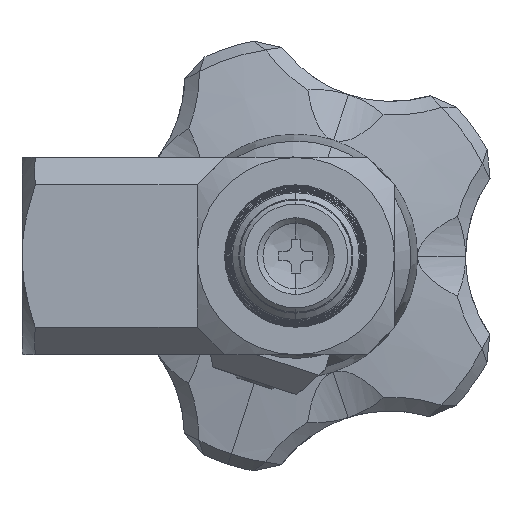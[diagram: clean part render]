
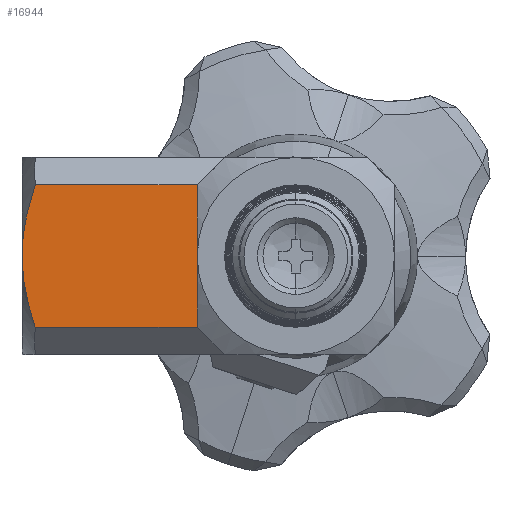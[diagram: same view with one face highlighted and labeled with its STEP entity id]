
A CAD part, front view. The second image highlights one B-rep face of the part: STEP entity #16944.
In plain terms, the highlighted planar face has unit normal (0, -1, 0).
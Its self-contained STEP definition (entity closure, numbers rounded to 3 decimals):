
#545 = CARTESIAN_POINT ( 'NONE',  ( -23.787, -9., -6.5 ) ) ;
#699 = EDGE_LOOP ( 'NONE', ( #14379, #13851, #14856, #22453, #15520 ) ) ;
#1371 = CARTESIAN_POINT ( 'NONE',  ( -23.787, -9., 6.5 ) ) ;
#1435 = VERTEX_POINT ( 'NONE', #23429 ) ;
#1555 = LINE ( 'NONE', #2465, #15081 ) ;
#1797 = CARTESIAN_POINT ( 'NONE',  ( -24.769, -9., 2.762 ) ) ;
#2257 = VECTOR ( 'NONE', #2313, 1000. ) ;
#2313 = DIRECTION ( 'NONE',  ( 0., 0., -1. ) ) ;
#2465 = CARTESIAN_POINT ( 'NONE',  ( -25., -9., 6.5 ) ) ;
#2981 = CARTESIAN_POINT ( 'NONE',  ( -9., -9., 6.5 ) ) ;
#3154 = EDGE_CURVE ( 'NONE', #6805, #1435, #3351, .T. ) ;
#3351 = B_SPLINE_CURVE_WITH_KNOTS ( 'NONE', 3,
 ( #1371, #11909, #17017, #1797, #19570, #4337, #22119, #6861 ),
 .UNSPECIFIED., .F., .F.,
 ( 4, 2, 2, 4 ),
 ( 0.024, 0.027, 0.029, 0.031 ),
 .UNSPECIFIED. ) ;
#3564 = VERTEX_POINT ( 'NONE', #25302 ) ;
#4337 = CARTESIAN_POINT ( 'NONE',  ( -24.97, -9., 1.115 ) ) ;
#6124 = PLANE ( 'NONE',  #19399 ) ;
#6805 = VERTEX_POINT ( 'NONE', #24330 ) ;
#6861 = CARTESIAN_POINT ( 'NONE',  ( -25., -9., 0. ) ) ;
#7550 = DIRECTION ( 'NONE',  ( -1., 0., 0. ) ) ;
#7969 = EDGE_CURVE ( 'NONE', #9007, #29430, #8215, .T. ) ;
#8086 = CARTESIAN_POINT ( 'NONE',  ( -25., -9., 0. ) ) ;
#8215 = LINE ( 'NONE', #12425, #2257 ) ;
#9007 = VERTEX_POINT ( 'NONE', #2981 ) ;
#10269 = EDGE_CURVE ( 'NONE', #1435, #3564, #11051, .T. ) ;
#11051 = B_SPLINE_CURVE_WITH_KNOTS ( 'NONE', 3,
 ( #8086, #23307, #13213, #30975, #15773, #545 ),
 .UNSPECIFIED., .F., .F.,
 ( 4, 2, 4 ),
 ( 0.031, 0.034, 0.037 ),
 .UNSPECIFIED. ) ;
#11388 = DIRECTION ( 'NONE',  ( 0., -1., 0. ) ) ;
#11909 = CARTESIAN_POINT ( 'NONE',  ( -24.142, -9., 5.448 ) ) ;
#12425 = CARTESIAN_POINT ( 'NONE',  ( -9., -9., -9. ) ) ;
#13213 = CARTESIAN_POINT ( 'NONE',  ( -24.878, -9., -2.207 ) ) ;
#13226 = FACE_OUTER_BOUND ( 'NONE', #699, .T. ) ;
#13851 = ORIENTED_EDGE ( 'NONE', *, *, #3154, .T. ) ;
#14379 = ORIENTED_EDGE ( 'NONE', *, *, #28761, .T. ) ;
#14856 = ORIENTED_EDGE ( 'NONE', *, *, #10269, .T. ) ;
#15081 = VECTOR ( 'NONE', #7550, 1000. ) ;
#15520 = ORIENTED_EDGE ( 'NONE', *, *, #7969, .F. ) ;
#15773 = CARTESIAN_POINT ( 'NONE',  ( -24.141, -9., -5.451 ) ) ;
#16256 = EDGE_CURVE ( 'NONE', #3564, #29430, #24042, .T. ) ;
#16944 = ADVANCED_FACE ( 'NONE', ( #13226 ), #6124, .T. ) ;
#17017 = CARTESIAN_POINT ( 'NONE',  ( -24.446, -9., 4.384 ) ) ;
#18828 = CARTESIAN_POINT ( 'NONE',  ( -9., -9., -6.5 ) ) ;
#19399 = AXIS2_PLACEMENT_3D ( 'NONE', #26573, #11388, #29109 ) ;
#19570 = CARTESIAN_POINT ( 'NONE',  ( -24.854, -9., 2.217 ) ) ;
#22119 = CARTESIAN_POINT ( 'NONE',  ( -25., -9., 0.555 ) ) ;
#22453 = ORIENTED_EDGE ( 'NONE', *, *, #16256, .T. ) ;
#23307 = CARTESIAN_POINT ( 'NONE',  ( -25., -9., -1.111 ) ) ;
#23429 = CARTESIAN_POINT ( 'NONE',  ( -25., -9., 0. ) ) ;
#23887 = DIRECTION ( 'NONE',  ( 1., 0., 0. ) ) ;
#24042 = LINE ( 'NONE', #18828, #30003 ) ;
#24330 = CARTESIAN_POINT ( 'NONE',  ( -23.787, -9., 6.5 ) ) ;
#25302 = CARTESIAN_POINT ( 'NONE',  ( -23.787, -9., -6.5 ) ) ;
#26573 = CARTESIAN_POINT ( 'NONE',  ( -25., -9., 9. ) ) ;
#28761 = EDGE_CURVE ( 'NONE', #9007, #6805, #1555, .T. ) ;
#29109 = DIRECTION ( 'NONE',  ( 0., 0., -1. ) ) ;
#29430 = VERTEX_POINT ( 'NONE', #31211 ) ;
#30003 = VECTOR ( 'NONE', #23887, 1000. ) ;
#30975 = CARTESIAN_POINT ( 'NONE',  ( -24.448, -9., -4.375 ) ) ;
#31211 = CARTESIAN_POINT ( 'NONE',  ( -9., -9., -6.5 ) ) ;
